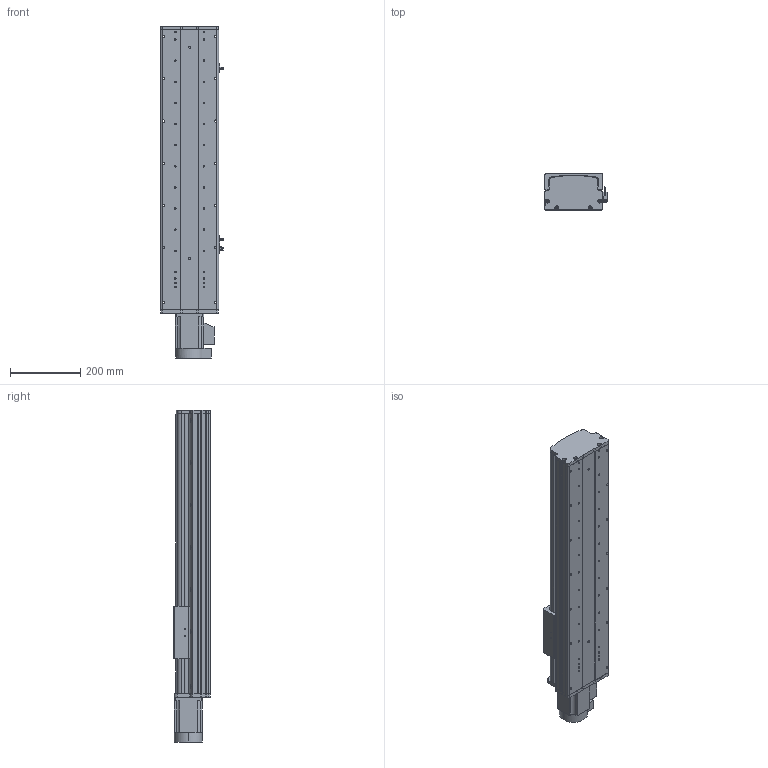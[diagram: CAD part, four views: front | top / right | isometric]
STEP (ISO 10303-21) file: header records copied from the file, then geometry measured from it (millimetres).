
FILE_DESCRIPTION (( 'STEP AP214' ), '1' );
FILE_NAME ('KSD165S-S500-MN-CM .STEP', '2017-08-07T08:10:15', ( '微软用户' ), ( '微软中国' ), 'SwSTEP 2.0', 'SolidWorks 2014', '' );
FILE_SCHEMA (( 'AUTOMOTIVE_DESIGN' ));
Length unit declared in the file: millimetre
Products named in the file (12): KSD165模组-防尘盖1-500行程-直连不带电机座; KSD165模组底板-500行程-直连不带电机座; 拸秶雄ん750W侜督萇儂; KSD165模组-直连不带电机座电机连接板; KSD165耀郪-佪裝-滅袉菜-3 -; C44ㄜ1912WP; 覜茼え68遵圉猾敕; U倰嫖萇假蚾璃; U倰嫖萇EEㄜSX672; KSD165耀郪-綴傷啣1; KSD165模组-丝杆滑动座-最新版; KSD165S-S500-MN-CM 
Assembly tree (15 placements, depth 2):
  KSD165S-S500-MN-CM 
    KSD165模组-丝杆滑动座-最新版
    KSD165耀郪-綴傷啣1
    U倰嫖萇EEㄜSX672  x3
    U倰嫖萇假蚾璃  x3
    覜茼え68遵圉猾敕
    C44ㄜ1912WP
    KSD165耀郪-佪裝-滅袉菜-3 -
    KSD165模组-直连不带电机座电机连接板
    拸秶雄ん750W侜督萇儂
    KSD165模组底板-500行程-直连不带电机座
    KSD165模组-防尘盖1-500行程-直连不带电机座
Bounding box: 178.7 x 104 x 943 mm (x, y, z)
Volume: 5610721.2 mm3; surface area: 1218848.1 mm2
Topology: 16 solids, 16 shells, 1187 faces, 3316 edges, 2149 vertices
Faces by surface type: cylinder 619, plane 491, cone 77
Entity records: 37207 total; most frequent: CARTESIAN_POINT 8331, DIRECTION 5533, ORIENTED_EDGE 5312, EDGE_CURVE 2656, AXIS2_PLACEMENT_3D 2071, VERTEX_POINT 1741, VECTOR 1391, LINE 1391
